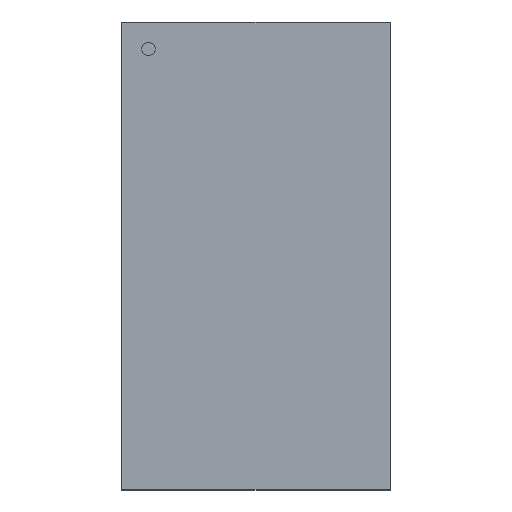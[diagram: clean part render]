
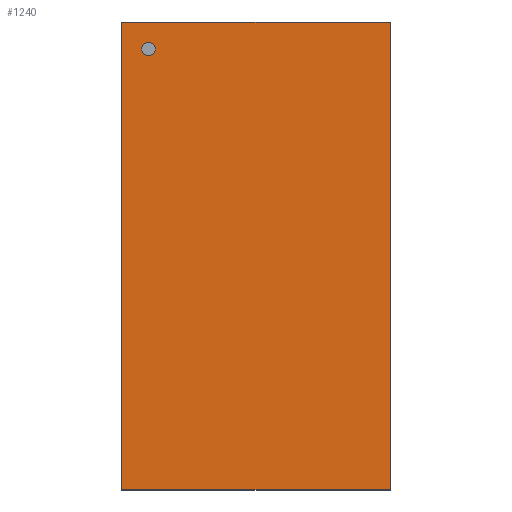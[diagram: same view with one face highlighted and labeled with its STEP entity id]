
A CAD part, top view. The second image highlights one B-rep face of the part: STEP entity #1240.
In plain terms, the highlighted planar face has unit normal (0, 0, 1).
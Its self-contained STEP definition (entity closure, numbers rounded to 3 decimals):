
#1016=CARTESIAN_POINT('',(4.051,-7.048,1.194));
#1015=VERTEX_POINT('',#1016);
#1026=CARTESIAN_POINT('',(-4.051,-7.048,1.194));
#1025=VERTEX_POINT('',#1026);
#1024=EDGE_CURVE('',#1025,#1015,#1029,.T.);
#1029=LINE('',#1026,#1031);
#1031=VECTOR('',#1032,8.103);
#1032=DIRECTION('',(1.0,0.0,0.0));
#1065=CARTESIAN_POINT('',(4.051,7.048,1.194));
#1064=VERTEX_POINT('',#1065);
#1073=EDGE_CURVE('',#1015,#1064,#1078,.T.);
#1078=LINE('',#1016,#1080);
#1080=VECTOR('',#1081,14.097);
#1081=DIRECTION('',(0.0,1.0,0.0));
#1114=CARTESIAN_POINT('',(-4.051,7.048,1.194));
#1113=VERTEX_POINT('',#1114);
#1122=EDGE_CURVE('',#1064,#1113,#1127,.T.);
#1127=LINE('',#1065,#1129);
#1129=VECTOR('',#1130,8.103);
#1130=DIRECTION('',(-1.0,0.0,0.0));
#1171=EDGE_CURVE('',#1113,#1025,#1176,.T.);
#1176=LINE('',#1114,#1178);
#1178=VECTOR('',#1179,14.097);
#1179=DIRECTION('',(0.0,-1.0,0.0));
#1240=ADVANCED_FACE('',(#1246),#1241,.T.);
#1241=PLANE('',#1242);
#1242=AXIS2_PLACEMENT_3D('',#1243,#1244,#1245);
#1243=CARTESIAN_POINT('',(-4.051,-7.048,1.194));
#1244=DIRECTION('',(0.0,0.0,1.0));
#1245=DIRECTION('',(0.,1.,0.));
#1246=FACE_OUTER_BOUND('',#1247,.T.);
#1247=EDGE_LOOP('',(#1248,#1258,#1268,#1278));
#1248=ORIENTED_EDGE('',*,*,#1024,.T.);
#1258=ORIENTED_EDGE('',*,*,#1073,.T.);
#1268=ORIENTED_EDGE('',*,*,#1122,.T.);
#1278=ORIENTED_EDGE('',*,*,#1171,.T.);
